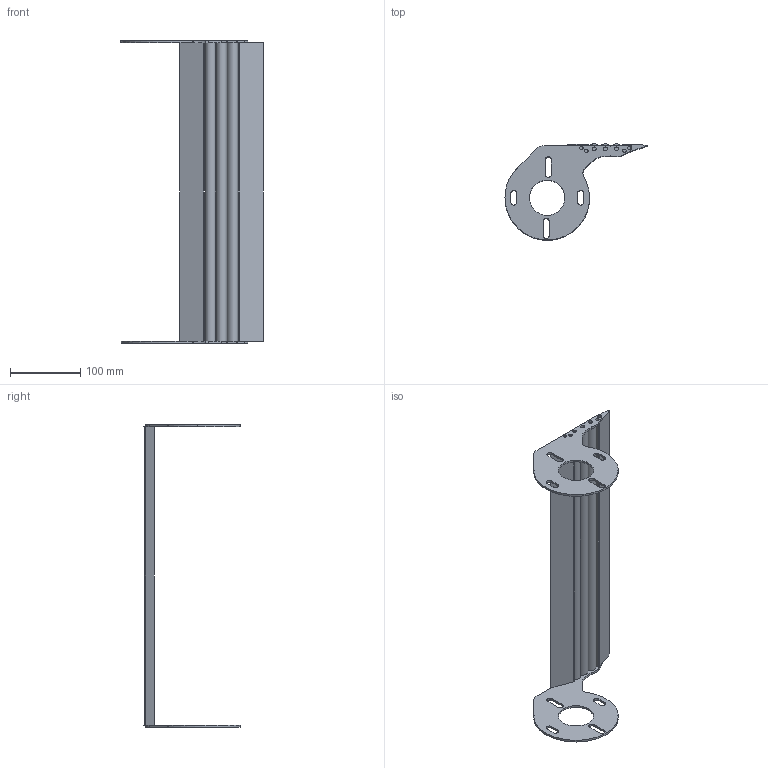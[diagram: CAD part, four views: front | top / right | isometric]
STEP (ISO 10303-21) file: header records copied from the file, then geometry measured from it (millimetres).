
FILE_DESCRIPTION (( 'STEP AP214' ), '1' );
FILE_NAME ('F2 1500 TG2M.step', '2017-04-05T06:48:29', ( '' ), ( '' ), 'SwSTEP 2.0', 'SolidWorks 2015', '' );
FILE_SCHEMA (( 'AUTOMOTIVE_DESIGN' ));
Length unit declared in the file: millimetre
Products named in the file (1): F2 1500 TG2M
Bounding box: 201.6 x 136.54 x 430 mm (x, y, z)
Volume: 524340.7 mm3; surface area: 182830.7 mm2
Topology: 1 solids, 1 shells, 157 faces, 427 edges, 278 vertices
Faces by surface type: plane 84, cylinder 73
Entity records: 6598 total; most frequent: DIRECTION 901, CARTESIAN_POINT 863, ORIENTED_EDGE 854, EDGE_CURVE 427, AXIS2_PLACEMENT_3D 316, VERTEX_POINT 278, LINE 269, VECTOR 269
